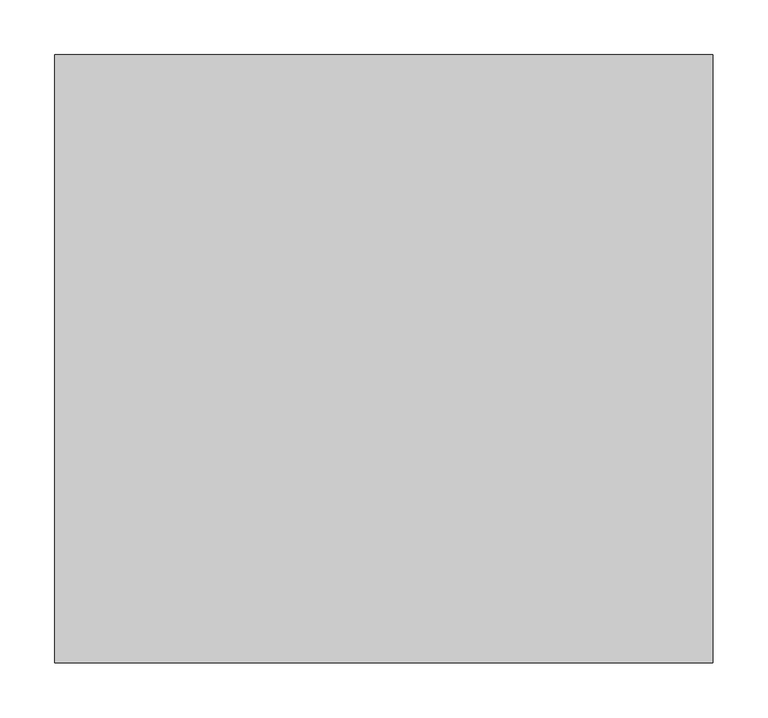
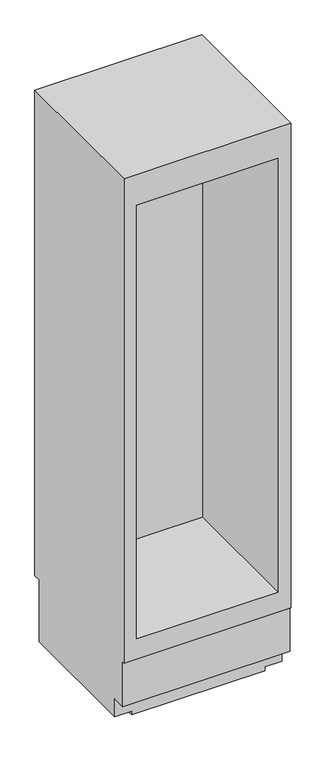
"""IFC4 building model written with IfcOpenShell, lengths in millimetres: proxy geometry, 11530900_GB_KWT2612VI : 36261205_GB_11530900_KWT2612VI."""

import ifcopenshell
import ifcopenshell.guid

model = None  # the IFC model being written
_history = None  # IfcOwnerHistory: only IFC2X3 demands one
_inside = {}  # id of a spatial element -> (the spatial element, [elements in it])
_under = {}  # id of a project, library or spatial element -> (it, [spatial elements below it])
_declared = {}  # id of a project -> (the project, [libraries it declares])
_typed = {}  # id of a type object -> (the type object, [elements of that type])
_made_of = {}  # id of a material, layer set ... -> (it, [elements and type objects made of it])


def new_model(schema):
    """Start an empty IFC model of exactly this schema.

    Asked for "IFC4X3", IfcOpenShell would pick the latest addendum, in which some entities
    have other attributes; the version numbers below select the first issue.
    IFC2X3 requires an IfcOwnerHistory on every rooted entity: one is made here for all.
    """
    global model, _history
    if schema == "IFC4X3":
        model = ifcopenshell.file(schema_version=(4, 3, 0, 0))
    else:
        model = ifcopenshell.file(schema=schema)
    _inside.clear()
    _under.clear()
    _declared.clear()
    _typed.clear()
    _made_of.clear()
    _history = None
    if model.schema == "IFC2X3":
        org = make("IfcOrganization", Name="unknown")
        user = make(
            "IfcPersonAndOrganization",
            ThePerson=make("IfcPerson", FamilyName="unknown"),
            TheOrganization=org,
        )
        app = make(
            "IfcApplication",
            ApplicationDeveloper=org,
            Version="unknown",
            ApplicationFullName="unknown",
            ApplicationIdentifier="unknown",
        )
        _history = make(
            "IfcOwnerHistory",
            OwningUser=user,
            OwningApplication=app,
            ChangeAction="ADDED",
            CreationDate=0,
        )
    return model


def make(cls, **values):
    """One entity of the class cls with the attributes given. An attribute that is None is left unset."""
    return model.create_entity(
        cls, **{name: value for name, value in values.items() if value is not None}
    )


def rooted(cls, **values):
    """An entity with a GlobalId (a new one), such as an element, a storey or a relation."""
    return make(cls, GlobalId=ifcopenshell.guid.new(), OwnerHistory=_history, **values)


def si_unit(unit_type, name, prefix=None):
    """IfcSIUnit, for example si_unit("LENGTHUNIT", "METRE", prefix="MILLI")."""
    return make("IfcSIUnit", UnitType=unit_type, Prefix=prefix, Name=name)


def assignment(units):
    """IfcUnitAssignment: the units of a project."""
    return None if units is None else make("IfcUnitAssignment", Units=units)


def point(xyz):
    """IfcCartesianPoint."""
    return None if xyz is None else make("IfcCartesianPoint", Coordinates=xyz)


def direction(xyz):
    """IfcDirection."""
    return None if xyz is None else make("IfcDirection", DirectionRatios=xyz)


def frame(location, z_axis=None, x_axis=None):
    """IfcAxis2Placement3D, a coordinate frame: its origin and axes. An axis left out is left unset."""
    return make(
        "IfcAxis2Placement3D",
        Location=point(location),
        Axis=direction(z_axis),
        RefDirection=direction(x_axis),
    )


def origin():
    """The frame at (0, 0, 0) with its axes left unset."""
    return frame((0.0, 0.0, 0.0))


def place(relative_to, where):
    """IfcLocalPlacement: puts the frame where relative to a parent placement (None: the world)."""
    return make(
        "IfcLocalPlacement", PlacementRelTo=relative_to, RelativePlacement=where
    )


def context(
    kind, dimensions, precision=None, world=None, true_north=None, identifier=None
):
    """IfcGeometricRepresentationContext, for example the 3D "Model" context."""
    return make(
        "IfcGeometricRepresentationContext",
        ContextIdentifier=identifier,
        ContextType=kind,
        CoordinateSpaceDimension=dimensions,
        Precision=precision,
        WorldCoordinateSystem=world,
        TrueNorth=true_north,
    )


def project(units=None, contexts=None):
    """IfcProject with its units and contexts."""
    return rooted(
        "IfcProject",
        Name="project",
        RepresentationContexts=contexts,
        UnitsInContext=assignment(units),
    )


def spatial(cls, under=None, at=None, **own):
    """A site, building, storey or space (cls), placed at a placement, below another one or the project."""
    s = rooted(cls, ObjectPlacement=at, **own)
    if under is not None:
        _under.setdefault(under.id(), (under, []))[1].append(s)
    return s


def circle_curve(where, radius):
    """IfcCircle in the frame where."""
    return make("IfcCircle", Position=where, Radius=radius)


def shape(context_of_items, identifier, shape_type, items):
    """IfcShapeRepresentation: the items that make up one representation, for example the "Body"."""
    return make(
        "IfcShapeRepresentation",
        ContextOfItems=context_of_items,
        RepresentationIdentifier=identifier,
        RepresentationType=shape_type,
        Items=items,
    )


def source(mapping_origin, context_of_items, identifier, shape_type, items):
    """IfcRepresentationMap: a shape defined once, which mapped items show again and again."""
    return make(
        "IfcRepresentationMap",
        MappingOrigin=mapping_origin,
        MappedRepresentation=shape(context_of_items, identifier, shape_type, items),
    )


def transform(
    local_origin,
    x_axis=None,
    y_axis=None,
    z_axis=None,
    scale=None,
    scale2=None,
    scale3=None,
    uniform=True,
):
    """IfcCartesianTransformationOperator3D, or its non-uniform kind. x_axis, y_axis, z_axis: its Axis1, 2, 3."""
    if uniform:
        return make(
            "IfcCartesianTransformationOperator3D",
            Axis1=direction(x_axis),
            Axis2=direction(y_axis),
            LocalOrigin=point(local_origin),
            Scale=scale,
            Axis3=direction(z_axis),
        )
    return make(
        "IfcCartesianTransformationOperator3DnonUniform",
        Axis1=direction(x_axis),
        Axis2=direction(y_axis),
        LocalOrigin=point(local_origin),
        Scale=scale,
        Axis3=direction(z_axis),
        Scale2=scale2,
        Scale3=scale3,
    )


def mapped(mapping_source, mapping_target):
    """IfcMappedItem: shows the shape of a source again, moved by a transform."""
    return make(
        "IfcMappedItem", MappingSource=mapping_source, MappingTarget=mapping_target
    )


def made_of(thing, what):
    """Note that an element or type object is made of a material, layer set ...; save() writes the relation."""
    if what is not None:
        _made_of.setdefault(what.id(), (what, []))[1].append(thing)
    return thing


def element(
    cls,
    number,
    at=None,
    inside=None,
    cuts=None,
    type_object=None,
    material=None,
    context=None,
    identifier="Body",
    shape_type=None,
    held_by="IfcProductDefinitionShape",
    body=None,
    shapes=None,
    **own,
):
    """One element of the class cls, such as IfcWall. Its Tag is "e" and its number.

    at: its placement. inside: the storey or other place that contains it. cuts: it is an
    opening in that element (IfcRelVoidsElement). A single representation is given by context,
    identifier, shape_type and body (its items); several are given by shapes. held_by: the class
    of the entity that holds the representations. save() writes the other relations.
    """
    e = rooted(cls, Tag="e%d" % number, ObjectPlacement=at, **own)
    if body is not None:
        shapes = [shape(context, identifier, shape_type, body)]
    if shapes is not None:
        e.Representation = make(held_by, Representations=shapes)
    if inside is not None:
        _inside.setdefault(inside.id(), (inside, []))[1].append(e)
    if cuts is not None:
        rooted(
            "IfcRelVoidsElement", RelatingBuildingElement=cuts, RelatedOpeningElement=e
        )
    if type_object is not None:
        _typed.setdefault(type_object.id(), (type_object, []))[1].append(e)
    return made_of(e, material)


def aggregate(whole, parts):
    """IfcRelAggregates: a whole, such as a stair, and the parts it consists of."""
    return rooted("IfcRelAggregates", RelatingObject=whole, RelatedObjects=parts)


def save(model, path):
    """Write the relations noted so far, then the file.

    IfcRelAggregates (storeys below a building ...), IfcRelContainedInSpatialStructure (elements
    in a storey), IfcRelDefinesByType, IfcRelAssociatesMaterial and IfcRelDeclares: one each for
    every whole, place, type object, material and project.
    """
    for whole, parts in _under.values():
        aggregate(whole, parts)
    for where, things in _inside.values():
        rooted(
            "IfcRelContainedInSpatialStructure",
            RelatedElements=things,
            RelatingStructure=where,
        )
    for kind, things in _typed.values():
        rooted("IfcRelDefinesByType", RelatedObjects=things, RelatingType=kind)
    for what, things in _made_of.values():
        rooted("IfcRelAssociatesMaterial", RelatedObjects=things, RelatingMaterial=what)
    for by, libraries in _declared.values():
        rooted("IfcRelDeclares", RelatingContext=by, RelatedDefinitions=libraries)
    model.write(path)


def plane_surface(at):
    """IfcPlane: the flat surface through the origin of the frame at, square to its z axis."""
    return make("IfcPlane", Position=at)


def cylinder_surface(at, radius):
    """IfcCylindricalSurface: all points at the distance radius from the z axis of the frame at."""
    return make("IfcCylindricalSurface", Position=at, Radius=radius)


def advanced_brep(points, edges, surfaces, faces):
    """IfcAdvancedBrep: a solid bounded by faces that lie on surfaces and meet in shared edges.

    An edge is (start, end): straight between two places in points (the first is 0);
    or (start, end, curve); or (start, end, curve, False) where it runs against its curve.
    A face is (place in surfaces, loops), or (place, loops, False) where it looks against
    its surface's normal. A loop lists edges by number (the first is 1), with a minus sign
    where the edge is run from its end to its start. The first loop is the outer one.
    """
    corners = [point(p) for p in points]
    vertices = [make("IfcVertexPoint", VertexGeometry=c) for c in corners]
    made = []
    for start, end, *more in edges:
        made.append(
            make(
                "IfcEdgeCurve",
                EdgeStart=vertices[start],
                EdgeEnd=vertices[end],
                EdgeGeometry=more[0] if more else make("IfcPolyline", Points=[corners[start], corners[end]]),
                SameSense=more[1] if len(more) > 1 else True,
            )
        )
    hull = []
    for where, loops, *sense in faces:
        bounds = []
        for j, loop in enumerate(loops):
            ring = [make("IfcOrientedEdge", EdgeElement=made[abs(k) - 1], Orientation=k > 0) for k in loop]
            bounds.append(
                make(
                    "IfcFaceOuterBound" if j == 0 else "IfcFaceBound",
                    Bound=make("IfcEdgeLoop", EdgeList=ring),
                    Orientation=True,
                )
            )
        hull.append(make("IfcAdvancedFace", Bounds=bounds, FaceSurface=surfaces[where], SameSense=sense[0] if sense else True))
    return make("IfcAdvancedBrep", Outer=make("IfcClosedShell", CfsFaces=hull))


def specialty_equipment_e5b69a9d(model_context):
    return source(origin(), model_context, "Body", "AdvancedBrep", [
        advanced_brep(
        [(301.5, 47.0, 2114.0), (301.5, 47.0, 267.0), (301.5, 54.0, 267.0), (301.5, 54.0, 97.0), (301.5, 104.0, 97.0), (301.5, 104.0, 28.0), (301.5, 577.0, 28.0), (301.5, 577.0, 263.0), (301.5, 604.0, 263.0), (301.5, 604.0, 2114.0), (-301.5, 47.0, 2114.0), (-301.5, 604.0, 2114.0), (-301.5, 604.0, 263.0), (-301.5, 577.0, 263.0), (-301.5, 577.0, 28.0), (-301.5, 104.0, 28.0), (-301.5, 104.0, 97.0), (-301.5, 54.0, 97.0), (-301.5, 54.0, 267.0), (-301.5, 47.0, 267.0), (241.5, 577.0, 28.0), (241.5, 577.0, 14.0), (-241.5, 577.0, 14.0), (-241.5, 577.0, 28.0), (241.5, 104.0, 14.0), (-241.5, 104.0, 14.0), (-241.5, 104.0, 28.0), (241.5, 104.0, 28.0), (255.5, 47.0, 1998.0), (255.5, 47.0, 343.0), (-255.5, 47.0, 343.0), (-255.5, 47.0, 1998.0), (255.5, 519.0, 1998.0), (-255.5, 519.0, 1998.0), (-255.5, 519.0, 343.0), (255.5, 519.0, 343.0), (-260.0, 202.8193473, 28.0), (-279.0, 202.8193473, 28.0), (-279.0, 153.1806527, 28.0), (-260.0, 153.1806527, 28.0), (-279.5, 525.8193473, 28.0), (-279.5, 476.1806527, 28.0), (-263.5, 476.1806527, 28.0), (-263.5, 525.8193473, 28.0), (279.0, 153.1806527, 28.0), (279.0, 202.8193473, 28.0), (260.0, 202.8193473, 28.0), (260.0, 153.1806527, 28.0), (263.5, 525.8193473, 28.0), (263.5, 476.1806527, 28.0), (279.5, 476.1806527, 28.0), (279.5, 525.8193473, 28.0), (-260.0, 203.0, 25.0), (-260.0, 153.0, 25.0), (-279.0, 153.0, 25.0), (-279.0, 203.0, 25.0), (-260.0, 178.0, 25.0), (-279.0, 178.0, 25.0), (279.0, 178.0, 25.0), (279.0, 153.0, 25.0), (279.0, 203.0, 25.0), (260.0, 203.0, 25.0), (260.0, 153.0, 25.0), (260.0, 178.0, 25.0), (-279.5, 526.0, 25.0), (-279.5, 476.0, 25.0), (-279.5, 501.0, 25.0), (-263.5, 526.0, 25.0), (-263.5, 476.0, 25.0), (-263.5, 501.0, 25.0), (263.5, 526.0, 25.0), (263.5, 476.0, 25.0), (263.5, 501.0, 25.0), (279.5, 526.0, 25.0), (279.5, 476.0, 25.0), (279.5, 501.0, 25.0)],
        [
            (0, 1),
            (1, 2),
            (2, 3),
            (3, 4),
            (4, 5),
            (5, 6),
            (6, 7),
            (7, 8),
            (8, 9),
            (9, 0),
            (10, 11),
            (11, 12),
            (12, 13),
            (13, 14),
            (14, 15),
            (15, 16),
            (16, 17),
            (17, 18),
            (18, 19),
            (19, 10),
            (9, 11),
            (10, 0),
            (8, 12),
            (7, 13),
            (6, 20),
            (20, 21),
            (21, 22),
            (22, 23),
            (23, 14),
            (21, 24),
            (24, 25),
            (25, 22),
            (4, 16),
            (15, 26),
            (26, 25),
            (24, 27),
            (27, 5),
            (3, 17),
            (2, 18),
            (1, 19),
            (28, 29),
            (29, 30),
            (30, 31),
            (31, 28),
            (32, 33),
            (33, 34),
            (34, 35),
            (35, 32),
            (35, 29),
            (28, 32),
            (34, 30),
            (33, 31),
            (23, 26),
            (36, 37),
            (37, 38),
            (38, 39),
            (39, 36),
            (40, 41),
            (41, 42),
            (42, 43),
            (43, 40),
            (27, 20),
            (44, 45),
            (45, 46),
            (46, 47),
            (47, 44),
            (48, 49),
            (49, 50),
            (50, 51),
            (51, 48),
            (52, 53, circle_curve(frame((-260.0, 178.0, 25.0), z_axis=(-1.0, 0.0, 0.0), x_axis=(0.0, -1.0, 0.0)), 25.0)),
            (53, 54),
            (54, 55, circle_curve(frame((-279.0, 178.0, 25.0), z_axis=(1.0, 0.0, 0.0), x_axis=(0.0, -1.0, 0.0)), 25.0)),
            (55, 52),
            (53, 39, circle_curve(frame((-260.0, 178.0, 25.0), z_axis=(-1.0, 0.0, 0.0), x_axis=(0.0, -1.0, 0.0)), 25.0)),
            (38, 54, circle_curve(frame((-279.0, 178.0, 25.0), z_axis=(1.0, 0.0, 0.0), x_axis=(0.0, -1.0, 0.0)), 25.0)),
            (55, 37, circle_curve(frame((-279.0, 178.0, 25.0), z_axis=(1.0, 0.0, 0.0), x_axis=(0.0, -1.0, 0.0)), 25.0)),
            (36, 52, circle_curve(frame((-260.0, 178.0, 25.0), z_axis=(-1.0, 0.0, 0.0), x_axis=(0.0, -1.0, 0.0)), 25.0)),
            (52, 56),
            (56, 53),
            (54, 57),
            (57, 55),
            (58, 59),
            (59, 60, circle_curve(frame((279.0, 178.0, 25.0), z_axis=(1.0, 0.0, 0.0), x_axis=(0.0, -1.0, 0.0)), 25.0)),
            (60, 58),
            (60, 45, circle_curve(frame((279.0, 178.0, 25.0), z_axis=(1.0, 0.0, 0.0), x_axis=(0.0, -1.0, 0.0)), 25.0)),
            (44, 59, circle_curve(frame((279.0, 178.0, 25.0), z_axis=(1.0, 0.0, 0.0), x_axis=(0.0, -1.0, 0.0)), 25.0)),
            (61, 62, circle_curve(frame((260.0, 178.0, 25.0), z_axis=(-1.0, 0.0, 0.0), x_axis=(0.0, -1.0, 0.0)), 25.0)),
            (62, 63),
            (63, 61),
            (62, 47, circle_curve(frame((260.0, 178.0, 25.0), z_axis=(-1.0, 0.0, 0.0), x_axis=(0.0, -1.0, 0.0)), 25.0)),
            (46, 61, circle_curve(frame((260.0, 178.0, 25.0), z_axis=(-1.0, 0.0, 0.0), x_axis=(0.0, -1.0, 0.0)), 25.0)),
            (64, 65, circle_curve(frame((-279.5, 501.0, 25.0), z_axis=(-1.0, 0.0, 0.0), x_axis=(0.0, -1.0, 0.0)), 25.0)),
            (65, 66),
            (66, 64),
            (65, 41, circle_curve(frame((-279.5, 501.0, 25.0), z_axis=(-1.0, 0.0, 0.0), x_axis=(0.0, -1.0, 0.0)), 25.0)),
            (40, 64, circle_curve(frame((-279.5, 501.0, 25.0), z_axis=(-1.0, 0.0, 0.0), x_axis=(0.0, -1.0, 0.0)), 25.0)),
            (64, 67),
            (67, 68, circle_curve(frame((-263.5, 501.0, 25.0), z_axis=(-1.0, 0.0, 0.0), x_axis=(0.0, -1.0, 0.0)), 25.0)),
            (68, 65),
            (43, 67, circle_curve(frame((-263.5, 501.0, 25.0), z_axis=(-1.0, 0.0, 0.0), x_axis=(0.0, -1.0, 0.0)), 25.0)),
            (68, 42, circle_curve(frame((-263.5, 501.0, 25.0), z_axis=(-1.0, 0.0, 0.0), x_axis=(0.0, -1.0, 0.0)), 25.0)),
            (67, 69),
            (69, 68),
            (70, 71, circle_curve(frame((263.5, 501.0, 25.0), z_axis=(-1.0, 0.0, 0.0), x_axis=(0.0, -1.0, 0.0)), 25.0)),
            (71, 72),
            (72, 70),
            (71, 49, circle_curve(frame((263.5, 501.0, 25.0), z_axis=(-1.0, 0.0, 0.0), x_axis=(0.0, -1.0, 0.0)), 25.0)),
            (48, 70, circle_curve(frame((263.5, 501.0, 25.0), z_axis=(-1.0, 0.0, 0.0), x_axis=(0.0, -1.0, 0.0)), 25.0)),
            (70, 73),
            (73, 74, circle_curve(frame((279.5, 501.0, 25.0), z_axis=(-1.0, 0.0, 0.0), x_axis=(0.0, -1.0, 0.0)), 25.0)),
            (74, 71),
            (51, 73, circle_curve(frame((279.5, 501.0, 25.0), z_axis=(-1.0, 0.0, 0.0), x_axis=(0.0, -1.0, 0.0)), 25.0)),
            (74, 50, circle_curve(frame((279.5, 501.0, 25.0), z_axis=(-1.0, 0.0, 0.0), x_axis=(0.0, -1.0, 0.0)), 25.0)),
            (73, 75),
            (75, 74),
            (59, 62),
            (61, 60),
        ],
        [
            plane_surface(frame((301.5, 604.0, 2114.0), z_axis=(1.0, 0.0, 0.0), x_axis=(0.0, -1.0, 0.0))),
            plane_surface(frame((-301.5, 604.0, 2114.0), z_axis=(-1.0, 0.0, 0.0), x_axis=(0.0, 1.0, 0.0))),
            plane_surface(frame((-301.5, 47.0, 2114.0), z_axis=(0.0, 0.0, 1.0), x_axis=(1.0, 0.0, 0.0))),
            plane_surface(frame((-301.5, 604.0, 2114.0), z_axis=(0.0, 1.0, 0.0), x_axis=(1.0, 0.0, 0.0))),
            plane_surface(frame((-301.5, 604.0, 263.0), z_axis=(0.0, 0.0, -1.0), x_axis=(1.0, 0.0, 0.0))),
            plane_surface(frame((-301.5, 577.0, 263.0), z_axis=(0.0, 1.0, 0.0), x_axis=(1.0, 0.0, 0.0))),
            plane_surface(frame((-301.5, 577.0, 14.0), z_axis=(0.0, 0.0, -1.0), x_axis=(1.0, 0.0, 0.0))),
            plane_surface(frame((-301.5, 104.0, 14.0), z_axis=(0.0, -1.0, 0.0), x_axis=(1.0, 0.0, 0.0))),
            plane_surface(frame((-301.5, 104.0, 97.0), z_axis=(0.0, 0.0, -1.0), x_axis=(1.0, 0.0, 0.0))),
            plane_surface(frame((-301.5, 54.0, 97.0), z_axis=(0.0, -1.0, 0.0), x_axis=(1.0, 0.0, 0.0))),
            plane_surface(frame((-301.5, 54.0, 267.0), z_axis=(0.0, 0.0, -1.0), x_axis=(1.0, 0.0, 0.0))),
            plane_surface(frame((-301.5, 47.0, 267.0), z_axis=(0.0, -1.0, 0.0), x_axis=(1.0, 0.0, 0.0))),
            plane_surface(frame((255.5, 519.0, 1998.0), z_axis=(0.0, -1.0, 0.0), x_axis=(0.0, 0.0, -1.0))),
            plane_surface(frame((255.5, 519.0, 1998.0), z_axis=(-1.0, 0.0, 0.0), x_axis=(0.0, -1.0, 0.0))),
            plane_surface(frame((255.5, 519.0, 343.0), z_axis=(0.0, 0.0, 1.0), x_axis=(0.0, -1.0, 0.0))),
            plane_surface(frame((-255.5, 519.0, 343.0), z_axis=(1.0, 0.0, 0.0), x_axis=(0.0, -1.0, 0.0))),
            plane_surface(frame((-255.5, 519.0, 1998.0), z_axis=(0.0, 0.0, -1.0), x_axis=(0.0, -1.0, 0.0))),
            plane_surface(frame((-301.5, 604.0, 28.0), z_axis=(0.0, 0.0, -1.0), x_axis=(-1.0, 0.0, 0.0))),
            plane_surface(frame((-241.5, 104.0, 28.0), z_axis=(-1.0, 0.0, 0.0), x_axis=(0.0, 0.0, -1.0))),
            plane_surface(frame((241.5, 604.0, 28.0), z_axis=(1.0, 0.0, 0.0), x_axis=(0.0, 0.0, -1.0))),
            cylinder_surface(frame((-394.1988927, 178.0, 25.0), z_axis=(1.0, 0.0, 0.0), x_axis=(0.0, -1.0, 0.0)), 25.0),
            plane_surface(frame((-260.0, 178.0, 25.0), z_axis=(1.0, 0.0, 0.0), x_axis=(0.0, -1.0, 0.0))),
            plane_surface(frame((-279.0, 178.0, 25.0), z_axis=(-1.0, 0.0, 0.0), x_axis=(0.0, -1.0, 0.0))),
            plane_surface(frame((279.0, 178.0, 25.0), z_axis=(1.0, 0.0, 0.0), x_axis=(0.0, -1.0, 0.0))),
            plane_surface(frame((260.0, 178.0, 25.0), z_axis=(-1.0, 0.0, 0.0), x_axis=(0.0, -1.0, 0.0))),
            plane_surface(frame((-279.5, 501.0, 25.0), z_axis=(-1.0, 0.0, 0.0), x_axis=(0.0, -1.0, 0.0))),
            cylinder_surface(frame((-394.1988927, 501.0, 25.0), z_axis=(1.0, 0.0, 0.0), x_axis=(0.0, -1.0, 0.0)), 25.0),
            plane_surface(frame((-263.5, 501.0, 25.0), z_axis=(1.0, 0.0, 0.0), x_axis=(0.0, -1.0, 0.0))),
            plane_surface(frame((263.5, 501.0, 25.0), z_axis=(-1.0, 0.0, 0.0), x_axis=(0.0, -1.0, 0.0))),
            plane_surface(frame((279.5, 501.0, 25.0), z_axis=(1.0, 0.0, 0.0), x_axis=(0.0, -1.0, 0.0))),
        ],
        [
            (0, [[1, 2, 3, 4, 5, 6, 7, 8, 9, 10]]),
            (1, [[11, 12, 13, 14, 15, 16, 17, 18, 19, 20]]),
            (2, [[-10, 21, -11, 22]]),
            (3, [[-9, 23, -12, -21]]),
            (4, [[-8, 24, -13, -23]]),
            (5, [[-24, -7, 25, 26, 27, 28, 29, -14]]),
            (6, [[-27, 30, 31, 32]]),
            (7, [[33, -16, 34, 35, -31, 36, 37, -5]]),
            (8, [[-4, 38, -17, -33]]),
            (9, [[-3, 39, -18, -38]]),
            (10, [[-2, 40, -19, -39]]),
            (11, [[-1, -22, -20, -40], [41, 42, 43, 44]]),
            (12, [[45, 46, 47, 48]]),
            (13, [[-48, 49, -41, 50]]),
            (14, [[-47, 51, -42, -49]]),
            (15, [[-46, 52, -43, -51]]),
            (16, [[-45, -50, -44, -52]]),
            (17, [[53, -34, -15, -29], [54, 55, 56, 57], [58, 59, 60, 61]]),
            (17, [[62, -25, -6, -37], [63, 64, 65, 66], [67, 68, 69, 70]]),
            (18, [[-53, -28, -32, -35]]),
            (19, [[-62, -36, -30, -26]]),
            (20, [[71, 72, 73, 74]]),
            (20, [[-72, 75, -56, 76]]),
            (20, [[-74, 77, -54, 78]]),
            (21, [[-71, 79, 80]]),
            (21, [[-80, -79, -78, -57, -75]]),
            (22, [[-73, 81, 82]]),
            (22, [[-81, -76, -55, -77, -82]]),
            (23, [[83, 84, 85]]),
            (23, [[-83, -85, 86, -63, 87]]),
            (24, [[88, 89, 90]]),
            (24, [[-89, 91, -65, 92, -90]]),
            (25, [[93, 94, 95]]),
            (25, [[-94, 96, -58, 97, -95]]),
            (26, [[-93, 98, 99, 100]]),
            (26, [[-98, -97, -61, 101]]),
            (26, [[-100, 102, -59, -96]]),
            (27, [[-99, 103, 104]]),
            (27, [[-104, -103, -101, -60, -102]]),
            (28, [[105, 106, 107]]),
            (28, [[-106, 108, -67, 109, -107]]),
            (26, [[-105, 110, 111, 112]]),
            (26, [[-110, -109, -70, 113]]),
            (26, [[-112, 114, -68, -108]]),
            (29, [[-111, 115, 116]]),
            (29, [[-116, -115, -113, -69, -114]]),
            (20, [[-84, 117, -88, 118]]),
            (20, [[-117, -87, -66, -91]]),
            (20, [[-118, -92, -64, -86]]),
        ],
    ),
    ])


if __name__ == "__main__":
    model = new_model("IFC4")
    model_context = context("Model", 3, world=origin())
    ifc_project = project(units=[si_unit("LENGTHUNIT", "METRE", prefix="MILLI")], contexts=[model_context])
    site = spatial("IfcSite", under=ifc_project)
    building = spatial("IfcBuilding", under=site)
    placement = place(None, origin())
    specialty_equipment_shape = specialty_equipment_e5b69a9d(model_context)
    element("IfcBuildingElementProxy", 1, Name="11530900_GB_KWT2612VI : 36261205_GB_11530900_KWT2612VI", ObjectType="11530900_GB_KWT2612VI : 36261205_GB_11530900_KWT2612VI", at=placement, inside=building, context=model_context, shape_type="MappedRepresentation", body=[
        mapped(specialty_equipment_shape, transform((0.0, 0.0, 0.0), x_axis=(1.0, 0.0, 0.0), y_axis=(0.0, 1.0, 0.0), z_axis=(0.0, 0.0, 1.0))),
    ])
    save(model, "model.ifc")
